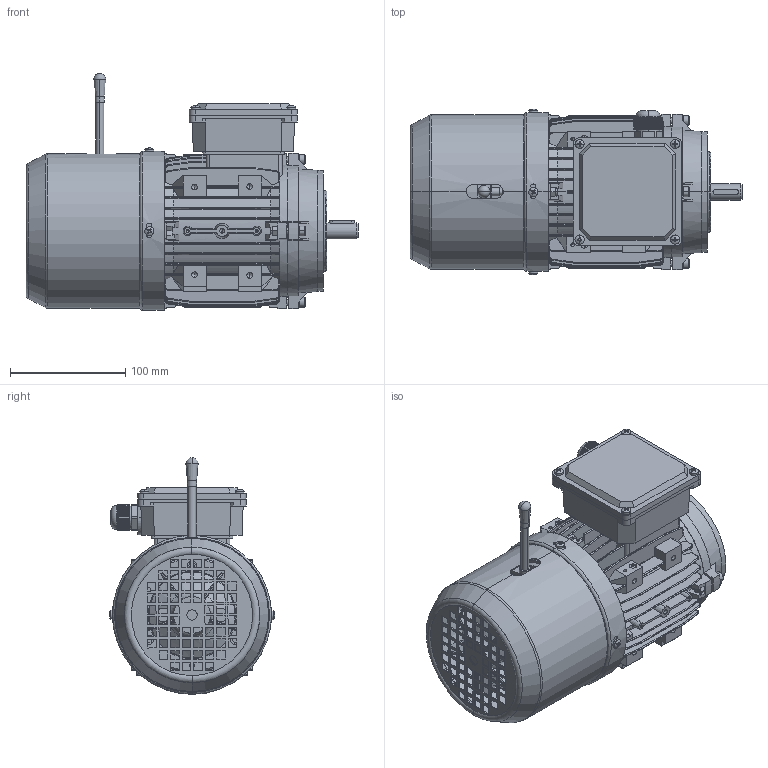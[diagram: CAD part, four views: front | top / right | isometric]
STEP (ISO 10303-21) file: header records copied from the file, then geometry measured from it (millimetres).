
FILE_DESCRIPTION (( 'STEP AP214' ), '1' );
FILE_NAME ('BCL0037.07B214.11.STEP', '2020-04-22T11:00:22', ( '' ), ( '' ), 'SwSTEP 2.0', 'SolidWorks 2019', '' );
FILE_SCHEMA (( 'AUTOMOTIVE_DESIGN' ));
Length unit declared in the file: millimetre
Products named in the file (1): BCL0037.07B214.11
Bounding box: 288.37 x 144.11 x 205.62 mm (x, y, z)
Volume: 888236.1 mm3; surface area: 535724 mm2
Topology: 27 solids, 27 shells, 4047 faces, 10854 edges, 6884 vertices
Faces by surface type: plane 2153, cylinder 1239, cone 285, bspline 252, torus 92, sphere 26
Entity records: 189674 total; most frequent: CARTESIAN_POINT 46791, ORIENTED_EDGE 21544, DIRECTION 19118, EDGE_CURVE 10772, VERTEX_POINT 6884, AXIS2_PLACEMENT_3D 6465, LINE 6188, VECTOR 6188
